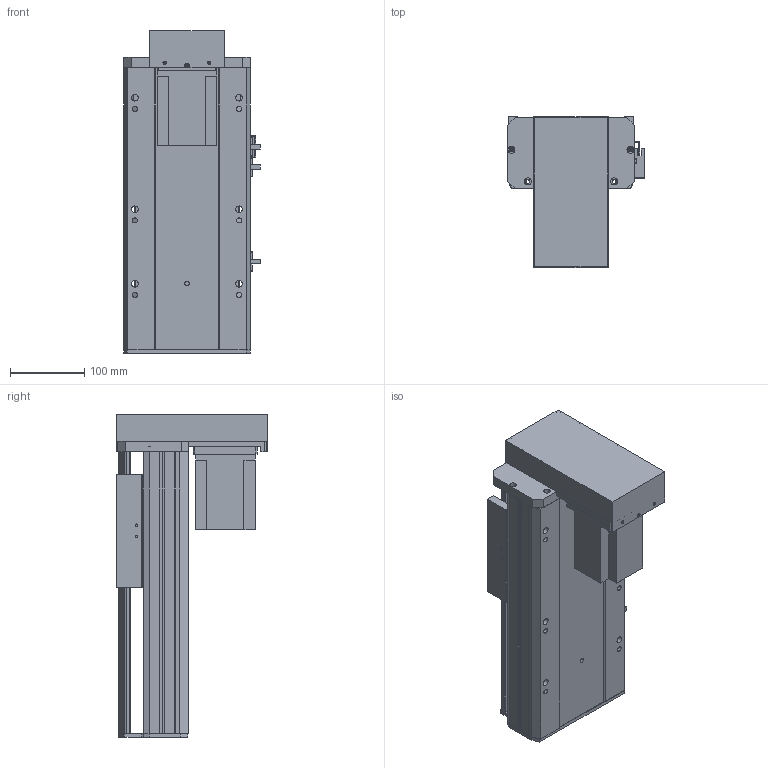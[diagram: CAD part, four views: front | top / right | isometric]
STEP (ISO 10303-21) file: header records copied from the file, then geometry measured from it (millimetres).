
FILE_DESCRIPTION (( 'STEP AP203' ), '1' );
FILE_NAME ('Y170-D10-S150-BM-P750W.STEP', '2020-01-22T02:47:20', ( '微软用户' ), ( '微软中国' ), 'SwSTEP 2.0', 'SolidWorks 2017', '' );
FILE_SCHEMA (( 'CONFIG_CONTROL_DESIGN' ));
Length unit declared in the file: millimetre
Products named in the file (12): 170--掛极-BR; Y100-135俋离換覜ん; 侂狟750W; Y170-D10-S150-BM-P750W; EGH20賑輸_蕼偞; Y雄赽釱-耜蚾; Y170-陔遴奻裔-BR; 170-BM耜蚾蟀諉啣; Y170-BM--P750W楊擘啣; -BM俋袗; Y170耜裔--準---; YD-Y100-135-新外置传感挡片(通用）
Assembly tree (14 placements, depth 2):
  Y170-D10-S150-BM-P750W
    Y170耜裔--準---
    170--掛极-BR
    侂狟750W
    EGH20賑輸_蕼偞  x2
    Y雄赽釱-耜蚾
    Y170-陔遴奻裔-BR
    170-BM耜蚾蟀諉啣
    Y170-BM--P750W楊擘啣
    -BM俋袗
    YD-Y100-135-新外置传感挡片(通用）
    Y100-135俋离換覜ん  x3
Bounding box: 183.5 x 203.5 x 433.5 mm (x, y, z)
Volume: 2894713.1 mm3; surface area: 900425 mm2
Topology: 14 solids, 14 shells, 870 faces, 2412 edges, 1590 vertices
Faces by surface type: plane 436, cylinder 418, cone 16
Entity records: 26986 total; most frequent: CARTESIAN_POINT 4615, DIRECTION 4504, ORIENTED_EDGE 4320, EDGE_CURVE 2160, AXIS2_PLACEMENT_3D 1587, VERTEX_POINT 1434, LINE 1330, VECTOR 1330
